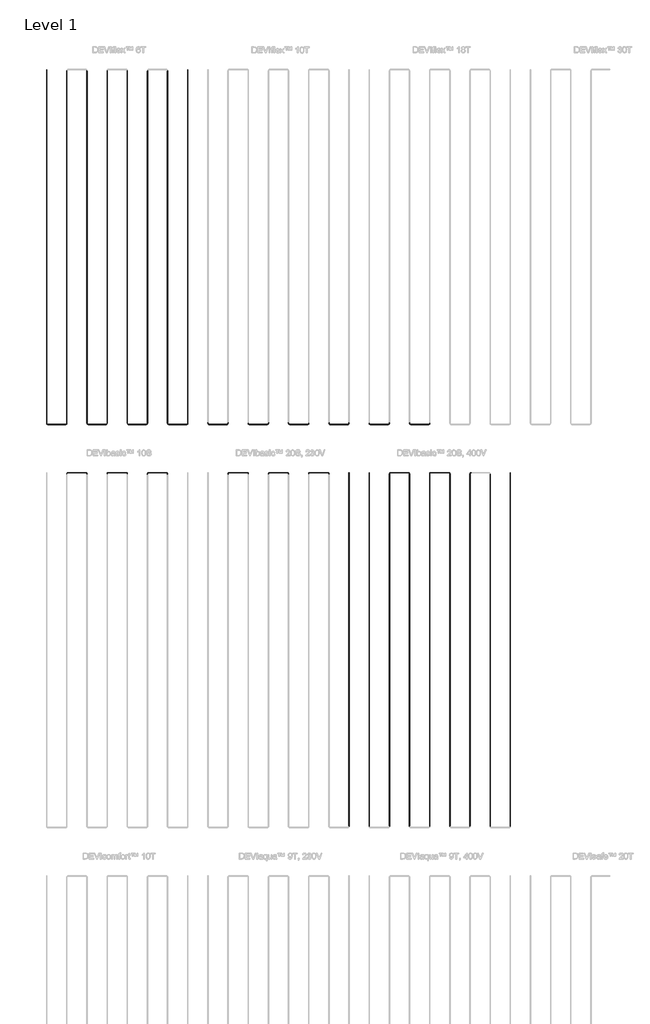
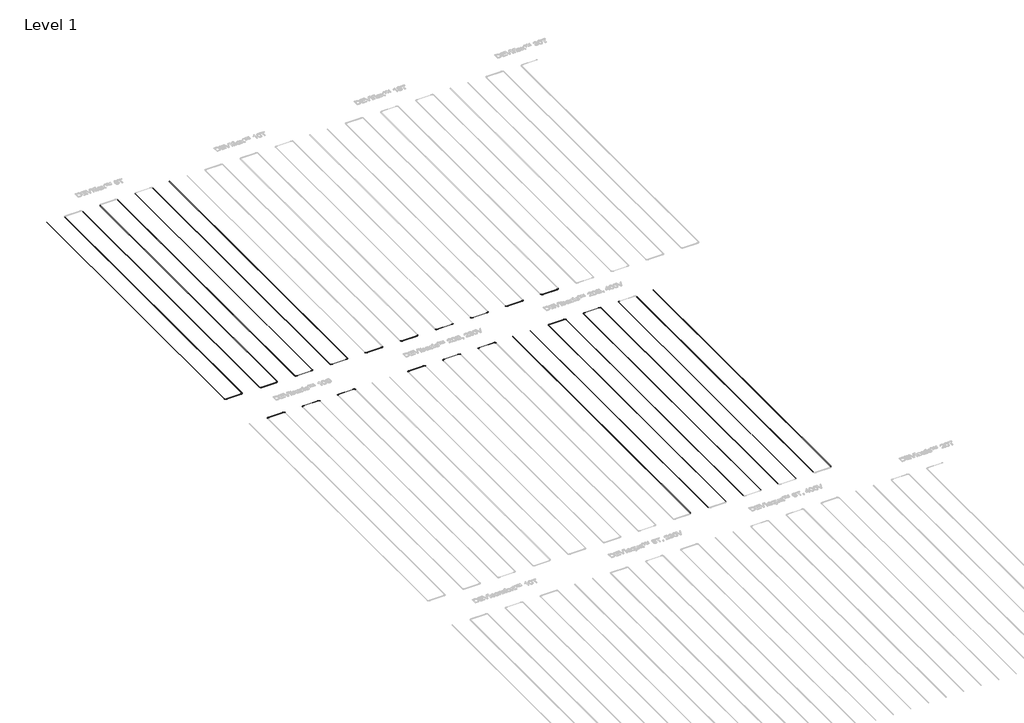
# One storey, part 3 of 26: 37 cable carrier fittings, 35 cable carrier segments.
"""IFC4 building model written with IfcOpenShell, lengths in millimetres."""

from ifc_helpers import new_model, si_unit, point, frame, frame_2d, origin, place, context, project, spatial, circle_curve, trimmed, segment, composite_curve, outline, extrude, transform, mapped, element, save
from components import cable_carrier_fitting_e4b1aeb6

model = new_model("IFC4")

# Units and contexts
model_context = context("Model", 3, world=origin())
ifc_project = project(units=[si_unit("LENGTHUNIT", "METRE", prefix="MILLI")], contexts=[model_context])

# Site, building, storey
site = spatial("IfcSite", under=ifc_project)
building = spatial("IfcBuilding", under=site)
storey = spatial("IfcBuildingStorey", under=building, Name="Level 1", Elevation=0.0)

# Cable carrier fittings
placement = place(None, origin())
cable_carrier_fitting_shape = cable_carrier_fitting_e4b1aeb6(model_context)
element("IfcCableCarrierFitting", 1, ObjectType="Danfoss Elbow : DEVIflex™ 6T", at=placement, inside=storey, context=model_context, shape_type="MappedRepresentation", body=[
    mapped(cable_carrier_fitting_shape, transform((-11587.3402445, -6738.7894079, -100.0), x_axis=(0.0, -1.0, 0.0), y_axis=(1.0, 0.0, 0.0), z_axis=(0.0, 0.0, 1.0))),
])
element("IfcCableCarrierFitting", 2, ObjectType="Danfoss Elbow : DEVIflex™ 6T", at=placement, inside=storey, context=model_context, shape_type="MappedRepresentation", body=[
    mapped(cable_carrier_fitting_shape, transform((-11087.3402445, -6738.7894079, -100.0), x_axis=(1.0, 0.0, 0.0), y_axis=(0.0, 1.0, 0.0), z_axis=(0.0, 0.0, 1.0))),
])
element("IfcCableCarrierFitting", 3, ObjectType="Danfoss Elbow : DEVIflex™ 6T", at=placement, inside=storey, context=model_context, shape_type="MappedRepresentation", body=[
    mapped(cable_carrier_fitting_shape, transform((-10587.3402445, -6738.7894079, -100.0), x_axis=(0.0, -1.0, 0.0), y_axis=(1.0, 0.0, 0.0), z_axis=(0.0, 0.0, 1.0))),
])
element("IfcCableCarrierFitting", 4, ObjectType="Danfoss Elbow : DEVIflex™ 6T", at=placement, inside=storey, context=model_context, shape_type="MappedRepresentation", body=[
    mapped(cable_carrier_fitting_shape, transform((-10087.3402445, -6738.7894079, -100.0), x_axis=(1.0, 0.0, 0.0), y_axis=(0.0, 1.0, 0.0), z_axis=(0.0, 0.0, 1.0))),
])
element("IfcCableCarrierFitting", 5, ObjectType="Danfoss Elbow : DEVIflex™ 6T", at=placement, inside=storey, context=model_context, shape_type="MappedRepresentation", body=[
    mapped(cable_carrier_fitting_shape, transform((-9587.3402445, -6738.7894079, -100.0), x_axis=(0.0, -1.0, 0.0), y_axis=(1.0, 0.0, 0.0), z_axis=(0.0, 0.0, 1.0))),
])
element("IfcCableCarrierFitting", 6, ObjectType="Danfoss Elbow : DEVIflex™ 6T", at=placement, inside=storey, context=model_context, shape_type="MappedRepresentation", body=[
    mapped(cable_carrier_fitting_shape, transform((-9087.3402445, -6738.7894079, -100.0), x_axis=(1.0, 0.0, 0.0), y_axis=(0.0, 1.0, 0.0), z_axis=(0.0, 0.0, 1.0))),
])
element("IfcCableCarrierFitting", 7, ObjectType="Danfoss Elbow : DEVIflex™ 6T", at=placement, inside=storey, context=model_context, shape_type="MappedRepresentation", body=[
    mapped(cable_carrier_fitting_shape, transform((-8587.3402445, -6738.7894079, -100.0), x_axis=(0.0, -1.0, 0.0), y_axis=(1.0, 0.0, 0.0), z_axis=(0.0, 0.0, 1.0))),
])
element("IfcCableCarrierFitting", 8, ObjectType="Danfoss Elbow : DEVIflex™ 6T", at=placement, inside=storey, context=model_context, shape_type="MappedRepresentation", body=[
    mapped(cable_carrier_fitting_shape, transform((-8087.3402445, -6738.7894079, -100.0), x_axis=(1.0, 0.0, 0.0), y_axis=(0.0, 1.0, 0.0), z_axis=(0.0, 0.0, 1.0))),
])
element("IfcCableCarrierFitting", 9, ObjectType="Danfoss Elbow : DEVIflex™ 10T", at=placement, inside=storey, context=model_context, shape_type="MappedRepresentation", body=[
    mapped(cable_carrier_fitting_shape, transform((-7587.3402445, -6738.7894079, -100.0), x_axis=(0.0, -1.0, 0.0), y_axis=(1.0, 0.0, 0.0), z_axis=(0.0, 0.0, 1.0))),
])
element("IfcCableCarrierFitting", 10, ObjectType="Danfoss Elbow : DEVIflex™ 10T", at=placement, inside=storey, context=model_context, shape_type="MappedRepresentation", body=[
    mapped(cable_carrier_fitting_shape, transform((-7087.3402445, -6738.7894079, -100.0), x_axis=(1.0, 0.0, 0.0), y_axis=(0.0, 1.0, 0.0), z_axis=(0.0, 0.0, 1.0))),
])
element("IfcCableCarrierFitting", 11, ObjectType="Danfoss Elbow : DEVIflex™ 10T", at=placement, inside=storey, context=model_context, shape_type="MappedRepresentation", body=[
    mapped(cable_carrier_fitting_shape, transform((-6587.3402445, -6738.7894079, -100.0), x_axis=(0.0, -1.0, 0.0), y_axis=(1.0, 0.0, 0.0), z_axis=(0.0, 0.0, 1.0))),
])
element("IfcCableCarrierFitting", 12, ObjectType="Danfoss Elbow : DEVIflex™ 10T", at=placement, inside=storey, context=model_context, shape_type="MappedRepresentation", body=[
    mapped(cable_carrier_fitting_shape, transform((-6087.3402445, -6738.7894079, -100.0), x_axis=(1.0, 0.0, 0.0), y_axis=(0.0, 1.0, 0.0), z_axis=(0.0, 0.0, 1.0))),
])
element("IfcCableCarrierFitting", 13, ObjectType="Danfoss Elbow : DEVIflex™ 10T", at=placement, inside=storey, context=model_context, shape_type="MappedRepresentation", body=[
    mapped(cable_carrier_fitting_shape, transform((-5587.3402445, -6738.7894079, -100.0), x_axis=(0.0, -1.0, 0.0), y_axis=(1.0, 0.0, 0.0), z_axis=(0.0, 0.0, 1.0))),
])
element("IfcCableCarrierFitting", 14, ObjectType="Danfoss Elbow : DEVIflex™ 10T", at=placement, inside=storey, context=model_context, shape_type="MappedRepresentation", body=[
    mapped(cable_carrier_fitting_shape, transform((-5087.3402445, -6738.7894079, -100.0), x_axis=(1.0, 0.0, 0.0), y_axis=(0.0, 1.0, 0.0), z_axis=(0.0, 0.0, 1.0))),
])
element("IfcCableCarrierFitting", 15, ObjectType="Danfoss Elbow : DEVIflex™ 10T", at=placement, inside=storey, context=model_context, shape_type="MappedRepresentation", body=[
    mapped(cable_carrier_fitting_shape, transform((-4587.3402445, -6738.7894079, -100.0), x_axis=(0.0, -1.0, 0.0), y_axis=(1.0, 0.0, 0.0), z_axis=(0.0, 0.0, 1.0))),
])
element("IfcCableCarrierFitting", 16, ObjectType="Danfoss Elbow : DEVIflex™ 10T", at=placement, inside=storey, context=model_context, shape_type="MappedRepresentation", body=[
    mapped(cable_carrier_fitting_shape, transform((-4087.3402445, -6738.7894079, -100.0), x_axis=(1.0, 0.0, 0.0), y_axis=(0.0, 1.0, 0.0), z_axis=(0.0, 0.0, 1.0))),
])
element("IfcCableCarrierFitting", 17, ObjectType="Danfoss Elbow : DEVIflex™ 18T", at=placement, inside=storey, context=model_context, shape_type="MappedRepresentation", body=[
    mapped(cable_carrier_fitting_shape, transform((-3587.3402445, -6738.7894079, -100.0), x_axis=(0.0, -1.0, 0.0), y_axis=(1.0, 0.0, 0.0), z_axis=(0.0, 0.0, 1.0))),
])
element("IfcCableCarrierFitting", 18, ObjectType="Danfoss Elbow : DEVIflex™ 18T", at=placement, inside=storey, context=model_context, shape_type="MappedRepresentation", body=[
    mapped(cable_carrier_fitting_shape, transform((-3087.3402445, -6738.7894079, -100.0), x_axis=(1.0, 0.0, 0.0), y_axis=(0.0, 1.0, 0.0), z_axis=(0.0, 0.0, 1.0))),
])
element("IfcCableCarrierFitting", 19, ObjectType="Danfoss Elbow : DEVIflex™ 18T", at=placement, inside=storey, context=model_context, shape_type="MappedRepresentation", body=[
    mapped(cable_carrier_fitting_shape, transform((-2587.3402445, -6738.7894079, -100.0), x_axis=(0.0, -1.0, 0.0), y_axis=(1.0, 0.0, 0.0), z_axis=(0.0, 0.0, 1.0))),
])
element("IfcCableCarrierFitting", 20, ObjectType="Danfoss Elbow : DEVIflex™ 18T", at=placement, inside=storey, context=model_context, shape_type="MappedRepresentation", body=[
    mapped(cable_carrier_fitting_shape, transform((-2087.3402445, -6738.7894079, -100.0), x_axis=(1.0, 0.0, 0.0), y_axis=(0.0, 1.0, 0.0), z_axis=(0.0, 0.0, 1.0))),
])
element("IfcCableCarrierFitting", 21, ObjectType="Danfoss Elbow : DEVIbasic™ 10S", at=placement, inside=storey, context=model_context, shape_type="MappedRepresentation", body=[
    mapped(cable_carrier_fitting_shape, transform((-11087.3402445, -7938.7894079, -100.0), x_axis=(-1.0, 0.0, 0.0), y_axis=(0.0, -1.0, 0.0), z_axis=(0.0, 0.0, 1.0))),
])
element("IfcCableCarrierFitting", 22, ObjectType="Danfoss Elbow : DEVIbasic™ 10S", at=placement, inside=storey, context=model_context, shape_type="MappedRepresentation", body=[
    mapped(cable_carrier_fitting_shape, transform((-10587.3402445, -7938.7894079, -100.0), x_axis=(0.0, 1.0, 0.0), y_axis=(-1.0, 0.0, 0.0), z_axis=(0.0, 0.0, 1.0))),
])
element("IfcCableCarrierFitting", 23, ObjectType="Danfoss Elbow : DEVIbasic™ 10S", at=placement, inside=storey, context=model_context, shape_type="MappedRepresentation", body=[
    mapped(cable_carrier_fitting_shape, transform((-10087.3402445, -7938.7894079, -100.0), x_axis=(-1.0, 0.0, 0.0), y_axis=(0.0, -1.0, 0.0), z_axis=(0.0, 0.0, 1.0))),
])
element("IfcCableCarrierFitting", 24, ObjectType="Danfoss Elbow : DEVIbasic™ 10S", at=placement, inside=storey, context=model_context, shape_type="MappedRepresentation", body=[
    mapped(cable_carrier_fitting_shape, transform((-9587.3402445, -7938.7894079, -100.0), x_axis=(0.0, 1.0, 0.0), y_axis=(-1.0, 0.0, 0.0), z_axis=(0.0, 0.0, 1.0))),
])
element("IfcCableCarrierFitting", 25, ObjectType="Danfoss Elbow : DEVIbasic™ 10S", at=placement, inside=storey, context=model_context, shape_type="MappedRepresentation", body=[
    mapped(cable_carrier_fitting_shape, transform((-9087.3402445, -7938.7894079, -100.0), x_axis=(-1.0, 0.0, 0.0), y_axis=(0.0, -1.0, 0.0), z_axis=(0.0, 0.0, 1.0))),
])
element("IfcCableCarrierFitting", 26, ObjectType="Danfoss Elbow : DEVIbasic™ 10S", at=placement, inside=storey, context=model_context, shape_type="MappedRepresentation", body=[
    mapped(cable_carrier_fitting_shape, transform((-8587.3402445, -7938.7894079, -100.0), x_axis=(0.0, 1.0, 0.0), y_axis=(-1.0, 0.0, 0.0), z_axis=(0.0, 0.0, 1.0))),
])
element("IfcCableCarrierFitting", 27, ObjectType="Danfoss Elbow : DEVIbasic™ 20S, 230V", at=placement, inside=storey, context=model_context, shape_type="MappedRepresentation", body=[
    mapped(cable_carrier_fitting_shape, transform((-7087.3402445, -7938.7894079, -100.0), x_axis=(-1.0, 0.0, 0.0), y_axis=(0.0, -1.0, 0.0), z_axis=(0.0, 0.0, 1.0))),
])
element("IfcCableCarrierFitting", 28, ObjectType="Danfoss Elbow : DEVIbasic™ 20S, 230V", at=placement, inside=storey, context=model_context, shape_type="MappedRepresentation", body=[
    mapped(cable_carrier_fitting_shape, transform((-6587.3402445, -7938.7894079, -100.0), x_axis=(0.0, 1.0, 0.0), y_axis=(-1.0, 0.0, 0.0), z_axis=(0.0, 0.0, 1.0))),
])
element("IfcCableCarrierFitting", 29, ObjectType="Danfoss Elbow : DEVIbasic™ 20S, 230V", at=placement, inside=storey, context=model_context, shape_type="MappedRepresentation", body=[
    mapped(cable_carrier_fitting_shape, transform((-6087.3402445, -7938.7894079, -100.0), x_axis=(-1.0, 0.0, 0.0), y_axis=(0.0, -1.0, 0.0), z_axis=(0.0, 0.0, 1.0))),
])
element("IfcCableCarrierFitting", 30, ObjectType="Danfoss Elbow : DEVIbasic™ 20S, 230V", at=placement, inside=storey, context=model_context, shape_type="MappedRepresentation", body=[
    mapped(cable_carrier_fitting_shape, transform((-5587.3402445, -7938.7894079, -100.0), x_axis=(0.0, 1.0, 0.0), y_axis=(-1.0, 0.0, 0.0), z_axis=(0.0, 0.0, 1.0))),
])
element("IfcCableCarrierFitting", 31, ObjectType="Danfoss Elbow : DEVIbasic™ 20S, 230V", at=placement, inside=storey, context=model_context, shape_type="MappedRepresentation", body=[
    mapped(cable_carrier_fitting_shape, transform((-5087.3402445, -7938.7894079, -100.0), x_axis=(-1.0, 0.0, 0.0), y_axis=(0.0, -1.0, 0.0), z_axis=(0.0, 0.0, 1.0))),
])
element("IfcCableCarrierFitting", 32, ObjectType="Danfoss Elbow : DEVIbasic™ 20S, 230V", at=placement, inside=storey, context=model_context, shape_type="MappedRepresentation", body=[
    mapped(cable_carrier_fitting_shape, transform((-4587.3402445, -7938.7894079, -100.0), x_axis=(0.0, 1.0, 0.0), y_axis=(-1.0, 0.0, 0.0), z_axis=(0.0, 0.0, 1.0))),
])
element("IfcCableCarrierFitting", 33, ObjectType="Danfoss Elbow : DEVIbasic™ 20S, 400V", at=placement, inside=storey, context=model_context, shape_type="MappedRepresentation", body=[
    mapped(cable_carrier_fitting_shape, transform((-3087.3402445, -7938.7894079, -100.0), x_axis=(-1.0, 0.0, 0.0), y_axis=(0.0, -1.0, 0.0), z_axis=(0.0, 0.0, 1.0))),
])
element("IfcCableCarrierFitting", 34, ObjectType="Danfoss Elbow : DEVIbasic™ 20S, 400V", at=placement, inside=storey, context=model_context, shape_type="MappedRepresentation", body=[
    mapped(cable_carrier_fitting_shape, transform((-2587.3402445, -7938.7894079, -100.0), x_axis=(0.0, 1.0, 0.0), y_axis=(-1.0, 0.0, 0.0), z_axis=(0.0, 0.0, 1.0))),
])
element("IfcCableCarrierFitting", 35, ObjectType="Danfoss Elbow : DEVIbasic™ 20S, 400V", at=placement, inside=storey, context=model_context, shape_type="MappedRepresentation", body=[
    mapped(cable_carrier_fitting_shape, transform((-2087.3402445, -7938.7894079, -100.0), x_axis=(-1.0, 0.0, 0.0), y_axis=(0.0, -1.0, 0.0), z_axis=(0.0, 0.0, 1.0))),
])
element("IfcCableCarrierFitting", 36, ObjectType="Danfoss Elbow : DEVIbasic™ 20S, 400V", at=placement, inside=storey, context=model_context, shape_type="MappedRepresentation", body=[
    mapped(cable_carrier_fitting_shape, transform((-1587.3402445, -7938.7894079, -100.0), x_axis=(0.0, 1.0, 0.0), y_axis=(-1.0, 0.0, 0.0), z_axis=(0.0, 0.0, 1.0))),
])
element("IfcCableCarrierFitting", 37, ObjectType="Danfoss Elbow : DEVIbasic™ 20S, 400V", at=placement, inside=storey, context=model_context, shape_type="MappedRepresentation", body=[
    mapped(cable_carrier_fitting_shape, transform((-1087.3402445, -7938.7894079, -100.0), x_axis=(-1.0, 0.0, 0.0), y_axis=(0.0, -1.0, 0.0), z_axis=(0.0, 0.0, 1.0))),
])

# Cable carrier segments
element("IfcCableCarrierSegment", 38, ObjectType="DEVIflex™ 6T", at=placement, inside=storey, context=model_context, shape_type="SweptSolid", body=[
    extrude(outline(composite_curve([segment(trimmed(circle_curve(frame_2d((-100.0, -11587.3402445)), 3.45), [point((-100.0, -11590.7902445))], [point((-103.45, -11587.3402445))], False, "CARTESIAN"), True, "CONTINUOUS"), segment(trimmed(circle_curve(frame_2d((-100.0, -11587.3402445)), 3.45), [point((-103.45, -11587.3402445))], [point((-100.0, -11583.8902445))], False, "CARTESIAN"), True, "CONTINUOUS"), segment(trimmed(circle_curve(frame_2d((-100.0, -11587.3402445)), 3.45), [point((-100.0, -11583.8902445))], [point((-96.55, -11587.3402445))], False, "CARTESIAN"), True, "CONTINUOUS"), segment(trimmed(circle_curve(frame_2d((-100.0, -11587.3402445)), 3.45), [point((-96.55, -11587.3402445))], [point((-100.0, -11590.7902445))], False, "CARTESIAN"), True, "CONTINUOUS")], self_intersect=False)), frame((0.0, -6703.7894079, 0.0), z_axis=(0.0, 1.0, 0.0), x_axis=(0.0, 0.0, 1.0)), (0.0, 0.0, 1.0), 8765.0),
])
element("IfcCableCarrierSegment", 39, ObjectType="DEVIflex™ 6T", at=placement, inside=storey, context=model_context, shape_type="SweptSolid", body=[
    extrude(outline(composite_curve([segment(trimmed(circle_curve(frame_2d((-6738.7894079, -100.0)), 3.45), [point((-6742.2394079, -100.0))], [point((-6738.7894079, -96.55))], False, "CARTESIAN"), True, "CONTINUOUS"), segment(trimmed(circle_curve(frame_2d((-6738.7894079, -100.0)), 3.45), [point((-6738.7894079, -96.55))], [point((-6735.3394079, -100.0))], False, "CARTESIAN"), True, "CONTINUOUS"), segment(trimmed(circle_curve(frame_2d((-6738.7894079, -100.0)), 3.45), [point((-6735.3394079, -100.0))], [point((-6738.7894079, -103.45))], False, "CARTESIAN"), True, "CONTINUOUS"), segment(trimmed(circle_curve(frame_2d((-6738.7894079, -100.0)), 3.45), [point((-6738.7894079, -103.45))], [point((-6742.2394079, -100.0))], False, "CARTESIAN"), True, "CONTINUOUS")], self_intersect=False)), frame((-11552.3402445, 0.0, 0.0), z_axis=(1.0, 0.0, 0.0), x_axis=(0.0, 1.0, 0.0)), (0.0, 0.0, 1.0), 430.0),
])
element("IfcCableCarrierSegment", 40, ObjectType="DEVIflex™ 6T", at=placement, inside=storey, context=model_context, shape_type="SweptSolid", body=[
    extrude(outline(composite_curve([segment(trimmed(circle_curve(frame_2d((-100.0, -11087.3402445)), 3.45), [point((-100.0, -11083.8902445))], [point((-96.55, -11087.3402445))], False, "CARTESIAN"), True, "CONTINUOUS"), segment(trimmed(circle_curve(frame_2d((-100.0, -11087.3402445)), 3.45), [point((-96.55, -11087.3402445))], [point((-100.0, -11090.7902445))], False, "CARTESIAN"), True, "CONTINUOUS"), segment(trimmed(circle_curve(frame_2d((-100.0, -11087.3402445)), 3.45), [point((-100.0, -11090.7902445))], [point((-103.45, -11087.3402445))], False, "CARTESIAN"), True, "CONTINUOUS"), segment(trimmed(circle_curve(frame_2d((-100.0, -11087.3402445)), 3.45), [point((-103.45, -11087.3402445))], [point((-100.0, -11083.8902445))], False, "CARTESIAN"), True, "CONTINUOUS")], self_intersect=False)), frame((0.0, -6703.7894079, 0.0), z_axis=(0.0, 1.0, 0.0), x_axis=(0.0, 0.0, 1.0)), (0.0, 0.0, 1.0), 8730.0),
])
element("IfcCableCarrierSegment", 41, ObjectType="DEVIflex™ 6T", at=placement, inside=storey, context=model_context, shape_type="SweptSolid", body=[
    extrude(outline(composite_curve([segment(trimmed(circle_curve(frame_2d((-100.0, -10587.3402445)), 3.45), [point((-100.0, -10590.7902445))], [point((-103.45, -10587.3402445))], False, "CARTESIAN"), True, "CONTINUOUS"), segment(trimmed(circle_curve(frame_2d((-100.0, -10587.3402445)), 3.45), [point((-103.45, -10587.3402445))], [point((-100.0, -10583.8902445))], False, "CARTESIAN"), True, "CONTINUOUS"), segment(trimmed(circle_curve(frame_2d((-100.0, -10587.3402445)), 3.45), [point((-100.0, -10583.8902445))], [point((-96.55, -10587.3402445))], False, "CARTESIAN"), True, "CONTINUOUS"), segment(trimmed(circle_curve(frame_2d((-100.0, -10587.3402445)), 3.45), [point((-96.55, -10587.3402445))], [point((-100.0, -10590.7902445))], False, "CARTESIAN"), True, "CONTINUOUS")], self_intersect=False)), frame((0.0, -6703.7894079, 0.0), z_axis=(0.0, 1.0, 0.0), x_axis=(0.0, 0.0, 1.0)), (0.0, 0.0, 1.0), 8730.0),
])
element("IfcCableCarrierSegment", 42, ObjectType="DEVIflex™ 6T", at=placement, inside=storey, context=model_context, shape_type="SweptSolid", body=[
    extrude(outline(composite_curve([segment(trimmed(circle_curve(frame_2d((-6738.7894079, -100.0)), 3.45), [point((-6742.2394079, -100.0))], [point((-6738.7894079, -96.55))], False, "CARTESIAN"), True, "CONTINUOUS"), segment(trimmed(circle_curve(frame_2d((-6738.7894079, -100.0)), 3.45), [point((-6738.7894079, -96.55))], [point((-6735.3394079, -100.0))], False, "CARTESIAN"), True, "CONTINUOUS"), segment(trimmed(circle_curve(frame_2d((-6738.7894079, -100.0)), 3.45), [point((-6735.3394079, -100.0))], [point((-6738.7894079, -103.45))], False, "CARTESIAN"), True, "CONTINUOUS"), segment(trimmed(circle_curve(frame_2d((-6738.7894079, -100.0)), 3.45), [point((-6738.7894079, -103.45))], [point((-6742.2394079, -100.0))], False, "CARTESIAN"), True, "CONTINUOUS")], self_intersect=False)), frame((-10552.3402445, 0.0, 0.0), z_axis=(1.0, 0.0, 0.0), x_axis=(0.0, 1.0, 0.0)), (0.0, 0.0, 1.0), 430.0),
])
element("IfcCableCarrierSegment", 43, ObjectType="DEVIflex™ 6T", at=placement, inside=storey, context=model_context, shape_type="SweptSolid", body=[
    extrude(outline(composite_curve([segment(trimmed(circle_curve(frame_2d((-100.0, -10087.3402445)), 3.45), [point((-100.0, -10083.8902445))], [point((-96.55, -10087.3402445))], False, "CARTESIAN"), True, "CONTINUOUS"), segment(trimmed(circle_curve(frame_2d((-100.0, -10087.3402445)), 3.45), [point((-96.55, -10087.3402445))], [point((-100.0, -10090.7902445))], False, "CARTESIAN"), True, "CONTINUOUS"), segment(trimmed(circle_curve(frame_2d((-100.0, -10087.3402445)), 3.45), [point((-100.0, -10090.7902445))], [point((-103.45, -10087.3402445))], False, "CARTESIAN"), True, "CONTINUOUS"), segment(trimmed(circle_curve(frame_2d((-100.0, -10087.3402445)), 3.45), [point((-103.45, -10087.3402445))], [point((-100.0, -10083.8902445))], False, "CARTESIAN"), True, "CONTINUOUS")], self_intersect=False)), frame((0.0, -6703.7894079, 0.0), z_axis=(0.0, 1.0, 0.0), x_axis=(0.0, 0.0, 1.0)), (0.0, 0.0, 1.0), 8730.0),
])
element("IfcCableCarrierSegment", 44, ObjectType="DEVIflex™ 6T", at=placement, inside=storey, context=model_context, shape_type="SweptSolid", body=[
    extrude(outline(composite_curve([segment(trimmed(circle_curve(frame_2d((-100.0, -9587.3402445)), 3.45), [point((-100.0, -9590.7902445))], [point((-103.45, -9587.3402445))], False, "CARTESIAN"), True, "CONTINUOUS"), segment(trimmed(circle_curve(frame_2d((-100.0, -9587.3402445)), 3.45), [point((-103.45, -9587.3402445))], [point((-100.0, -9583.8902445))], False, "CARTESIAN"), True, "CONTINUOUS"), segment(trimmed(circle_curve(frame_2d((-100.0, -9587.3402445)), 3.45), [point((-100.0, -9583.8902445))], [point((-96.55, -9587.3402445))], False, "CARTESIAN"), True, "CONTINUOUS"), segment(trimmed(circle_curve(frame_2d((-100.0, -9587.3402445)), 3.45), [point((-96.55, -9587.3402445))], [point((-100.0, -9590.7902445))], False, "CARTESIAN"), True, "CONTINUOUS")], self_intersect=False)), frame((0.0, -6703.7894079, 0.0), z_axis=(0.0, 1.0, 0.0), x_axis=(0.0, 0.0, 1.0)), (0.0, 0.0, 1.0), 8730.0),
])
element("IfcCableCarrierSegment", 45, ObjectType="DEVIflex™ 6T", at=placement, inside=storey, context=model_context, shape_type="SweptSolid", body=[
    extrude(outline(composite_curve([segment(trimmed(circle_curve(frame_2d((-6738.7894079, -100.0)), 3.45), [point((-6742.2394079, -100.0))], [point((-6738.7894079, -96.55))], False, "CARTESIAN"), True, "CONTINUOUS"), segment(trimmed(circle_curve(frame_2d((-6738.7894079, -100.0)), 3.45), [point((-6738.7894079, -96.55))], [point((-6735.3394079, -100.0))], False, "CARTESIAN"), True, "CONTINUOUS"), segment(trimmed(circle_curve(frame_2d((-6738.7894079, -100.0)), 3.45), [point((-6735.3394079, -100.0))], [point((-6738.7894079, -103.45))], False, "CARTESIAN"), True, "CONTINUOUS"), segment(trimmed(circle_curve(frame_2d((-6738.7894079, -100.0)), 3.45), [point((-6738.7894079, -103.45))], [point((-6742.2394079, -100.0))], False, "CARTESIAN"), True, "CONTINUOUS")], self_intersect=False)), frame((-9552.3402445, 0.0, 0.0), z_axis=(1.0, 0.0, 0.0), x_axis=(0.0, 1.0, 0.0)), (0.0, 0.0, 1.0), 430.0),
])
element("IfcCableCarrierSegment", 46, ObjectType="DEVIflex™ 6T", at=placement, inside=storey, context=model_context, shape_type="SweptSolid", body=[
    extrude(outline(composite_curve([segment(trimmed(circle_curve(frame_2d((-100.0, -9087.3402445)), 3.45), [point((-100.0, -9083.8902445))], [point((-96.55, -9087.3402445))], False, "CARTESIAN"), True, "CONTINUOUS"), segment(trimmed(circle_curve(frame_2d((-100.0, -9087.3402445)), 3.45), [point((-96.55, -9087.3402445))], [point((-100.0, -9090.7902445))], False, "CARTESIAN"), True, "CONTINUOUS"), segment(trimmed(circle_curve(frame_2d((-100.0, -9087.3402445)), 3.45), [point((-100.0, -9090.7902445))], [point((-103.45, -9087.3402445))], False, "CARTESIAN"), True, "CONTINUOUS"), segment(trimmed(circle_curve(frame_2d((-100.0, -9087.3402445)), 3.45), [point((-103.45, -9087.3402445))], [point((-100.0, -9083.8902445))], False, "CARTESIAN"), True, "CONTINUOUS")], self_intersect=False)), frame((0.0, -6703.7894079, 0.0), z_axis=(0.0, 1.0, 0.0), x_axis=(0.0, 0.0, 1.0)), (0.0, 0.0, 1.0), 8730.0),
])
element("IfcCableCarrierSegment", 47, ObjectType="DEVIflex™ 6T", at=placement, inside=storey, context=model_context, shape_type="SweptSolid", body=[
    extrude(outline(composite_curve([segment(trimmed(circle_curve(frame_2d((-100.0, -8587.3402445)), 3.45), [point((-100.0, -8590.7902445))], [point((-103.45, -8587.3402445))], False, "CARTESIAN"), True, "CONTINUOUS"), segment(trimmed(circle_curve(frame_2d((-100.0, -8587.3402445)), 3.45), [point((-103.45, -8587.3402445))], [point((-100.0, -8583.8902445))], False, "CARTESIAN"), True, "CONTINUOUS"), segment(trimmed(circle_curve(frame_2d((-100.0, -8587.3402445)), 3.45), [point((-100.0, -8583.8902445))], [point((-96.55, -8587.3402445))], False, "CARTESIAN"), True, "CONTINUOUS"), segment(trimmed(circle_curve(frame_2d((-100.0, -8587.3402445)), 3.45), [point((-96.55, -8587.3402445))], [point((-100.0, -8590.7902445))], False, "CARTESIAN"), True, "CONTINUOUS")], self_intersect=False)), frame((0.0, -6703.7894079, 0.0), z_axis=(0.0, 1.0, 0.0), x_axis=(0.0, 0.0, 1.0)), (0.0, 0.0, 1.0), 8730.0),
])
element("IfcCableCarrierSegment", 48, ObjectType="DEVIflex™ 6T", at=placement, inside=storey, context=model_context, shape_type="SweptSolid", body=[
    extrude(outline(composite_curve([segment(trimmed(circle_curve(frame_2d((-6738.7894079, -100.0)), 3.45), [point((-6742.2394079, -100.0))], [point((-6738.7894079, -96.55))], False, "CARTESIAN"), True, "CONTINUOUS"), segment(trimmed(circle_curve(frame_2d((-6738.7894079, -100.0)), 3.45), [point((-6738.7894079, -96.55))], [point((-6735.3394079, -100.0))], False, "CARTESIAN"), True, "CONTINUOUS"), segment(trimmed(circle_curve(frame_2d((-6738.7894079, -100.0)), 3.45), [point((-6735.3394079, -100.0))], [point((-6738.7894079, -103.45))], False, "CARTESIAN"), True, "CONTINUOUS"), segment(trimmed(circle_curve(frame_2d((-6738.7894079, -100.0)), 3.45), [point((-6738.7894079, -103.45))], [point((-6742.2394079, -100.0))], False, "CARTESIAN"), True, "CONTINUOUS")], self_intersect=False)), frame((-8552.3402445, 0.0, 0.0), z_axis=(1.0, 0.0, 0.0), x_axis=(0.0, 1.0, 0.0)), (0.0, 0.0, 1.0), 430.0),
])
element("IfcCableCarrierSegment", 49, ObjectType="DEVIflex™ 6T", at=placement, inside=storey, context=model_context, shape_type="SweptSolid", body=[
    extrude(outline(composite_curve([segment(trimmed(circle_curve(frame_2d((-100.0, -8087.3402445)), 3.45), [point((-100.0, -8083.8902445))], [point((-96.55, -8087.3402445))], False, "CARTESIAN"), True, "CONTINUOUS"), segment(trimmed(circle_curve(frame_2d((-100.0, -8087.3402445)), 3.45), [point((-96.55, -8087.3402445))], [point((-100.0, -8090.7902445))], False, "CARTESIAN"), True, "CONTINUOUS"), segment(trimmed(circle_curve(frame_2d((-100.0, -8087.3402445)), 3.45), [point((-100.0, -8090.7902445))], [point((-103.45, -8087.3402445))], False, "CARTESIAN"), True, "CONTINUOUS"), segment(trimmed(circle_curve(frame_2d((-100.0, -8087.3402445)), 3.45), [point((-103.45, -8087.3402445))], [point((-100.0, -8083.8902445))], False, "CARTESIAN"), True, "CONTINUOUS")], self_intersect=False)), frame((0.0, -6703.7894079, 0.0), z_axis=(0.0, 1.0, 0.0), x_axis=(0.0, 0.0, 1.0)), (0.0, 0.0, 1.0), 8765.0),
])
element("IfcCableCarrierSegment", 50, ObjectType="DEVIflex™ 10T", at=placement, inside=storey, context=model_context, shape_type="SweptSolid", body=[
    extrude(outline(composite_curve([segment(trimmed(circle_curve(frame_2d((-6738.7894079, -100.0)), 3.45), [point((-6742.2394079, -100.0))], [point((-6738.7894079, -96.55))], False, "CARTESIAN"), True, "CONTINUOUS"), segment(trimmed(circle_curve(frame_2d((-6738.7894079, -100.0)), 3.45), [point((-6738.7894079, -96.55))], [point((-6735.3394079, -100.0))], False, "CARTESIAN"), True, "CONTINUOUS"), segment(trimmed(circle_curve(frame_2d((-6738.7894079, -100.0)), 3.45), [point((-6735.3394079, -100.0))], [point((-6738.7894079, -103.45))], False, "CARTESIAN"), True, "CONTINUOUS"), segment(trimmed(circle_curve(frame_2d((-6738.7894079, -100.0)), 3.45), [point((-6738.7894079, -103.45))], [point((-6742.2394079, -100.0))], False, "CARTESIAN"), True, "CONTINUOUS")], self_intersect=False)), frame((-7552.3402445, 0.0, 0.0), z_axis=(1.0, 0.0, 0.0), x_axis=(0.0, 1.0, 0.0)), (0.0, 0.0, 1.0), 430.0),
])
element("IfcCableCarrierSegment", 51, ObjectType="DEVIflex™ 10T", at=placement, inside=storey, context=model_context, shape_type="SweptSolid", body=[
    extrude(outline(composite_curve([segment(trimmed(circle_curve(frame_2d((-6738.7894079, -100.0)), 3.45), [point((-6742.2394079, -100.0))], [point((-6738.7894079, -96.55))], False, "CARTESIAN"), True, "CONTINUOUS"), segment(trimmed(circle_curve(frame_2d((-6738.7894079, -100.0)), 3.45), [point((-6738.7894079, -96.55))], [point((-6735.3394079, -100.0))], False, "CARTESIAN"), True, "CONTINUOUS"), segment(trimmed(circle_curve(frame_2d((-6738.7894079, -100.0)), 3.45), [point((-6735.3394079, -100.0))], [point((-6738.7894079, -103.45))], False, "CARTESIAN"), True, "CONTINUOUS"), segment(trimmed(circle_curve(frame_2d((-6738.7894079, -100.0)), 3.45), [point((-6738.7894079, -103.45))], [point((-6742.2394079, -100.0))], False, "CARTESIAN"), True, "CONTINUOUS")], self_intersect=False)), frame((-6552.3402445, 0.0, 0.0), z_axis=(1.0, 0.0, 0.0), x_axis=(0.0, 1.0, 0.0)), (0.0, 0.0, 1.0), 430.0),
])
element("IfcCableCarrierSegment", 52, ObjectType="DEVIflex™ 10T", at=placement, inside=storey, context=model_context, shape_type="SweptSolid", body=[
    extrude(outline(composite_curve([segment(trimmed(circle_curve(frame_2d((-6738.7894079, -100.0)), 3.45), [point((-6742.2394079, -100.0))], [point((-6738.7894079, -96.55))], False, "CARTESIAN"), True, "CONTINUOUS"), segment(trimmed(circle_curve(frame_2d((-6738.7894079, -100.0)), 3.45), [point((-6738.7894079, -96.55))], [point((-6735.3394079, -100.0))], False, "CARTESIAN"), True, "CONTINUOUS"), segment(trimmed(circle_curve(frame_2d((-6738.7894079, -100.0)), 3.45), [point((-6735.3394079, -100.0))], [point((-6738.7894079, -103.45))], False, "CARTESIAN"), True, "CONTINUOUS"), segment(trimmed(circle_curve(frame_2d((-6738.7894079, -100.0)), 3.45), [point((-6738.7894079, -103.45))], [point((-6742.2394079, -100.0))], False, "CARTESIAN"), True, "CONTINUOUS")], self_intersect=False)), frame((-5552.3402445, 0.0, 0.0), z_axis=(1.0, 0.0, 0.0), x_axis=(0.0, 1.0, 0.0)), (0.0, 0.0, 1.0), 430.0),
])
element("IfcCableCarrierSegment", 53, ObjectType="DEVIflex™ 10T", at=placement, inside=storey, context=model_context, shape_type="SweptSolid", body=[
    extrude(outline(composite_curve([segment(trimmed(circle_curve(frame_2d((-6738.7894079, -100.0)), 3.45), [point((-6742.2394079, -100.0))], [point((-6738.7894079, -96.55))], False, "CARTESIAN"), True, "CONTINUOUS"), segment(trimmed(circle_curve(frame_2d((-6738.7894079, -100.0)), 3.45), [point((-6738.7894079, -96.55))], [point((-6735.3394079, -100.0))], False, "CARTESIAN"), True, "CONTINUOUS"), segment(trimmed(circle_curve(frame_2d((-6738.7894079, -100.0)), 3.45), [point((-6735.3394079, -100.0))], [point((-6738.7894079, -103.45))], False, "CARTESIAN"), True, "CONTINUOUS"), segment(trimmed(circle_curve(frame_2d((-6738.7894079, -100.0)), 3.45), [point((-6738.7894079, -103.45))], [point((-6742.2394079, -100.0))], False, "CARTESIAN"), True, "CONTINUOUS")], self_intersect=False)), frame((-4552.3402445, 0.0, 0.0), z_axis=(1.0, 0.0, 0.0), x_axis=(0.0, 1.0, 0.0)), (0.0, 0.0, 1.0), 430.0),
])
element("IfcCableCarrierSegment", 54, ObjectType="DEVIflex™ 18T", at=placement, inside=storey, context=model_context, shape_type="SweptSolid", body=[
    extrude(outline(composite_curve([segment(trimmed(circle_curve(frame_2d((-6738.7894079, -100.0)), 3.45), [point((-6742.2394079, -100.0))], [point((-6738.7894079, -96.55))], False, "CARTESIAN"), True, "CONTINUOUS"), segment(trimmed(circle_curve(frame_2d((-6738.7894079, -100.0)), 3.45), [point((-6738.7894079, -96.55))], [point((-6735.3394079, -100.0))], False, "CARTESIAN"), True, "CONTINUOUS"), segment(trimmed(circle_curve(frame_2d((-6738.7894079, -100.0)), 3.45), [point((-6735.3394079, -100.0))], [point((-6738.7894079, -103.45))], False, "CARTESIAN"), True, "CONTINUOUS"), segment(trimmed(circle_curve(frame_2d((-6738.7894079, -100.0)), 3.45), [point((-6738.7894079, -103.45))], [point((-6742.2394079, -100.0))], False, "CARTESIAN"), True, "CONTINUOUS")], self_intersect=False)), frame((-3552.3402445, 0.0, 0.0), z_axis=(1.0, 0.0, 0.0), x_axis=(0.0, 1.0, 0.0)), (0.0, 0.0, 1.0), 430.0),
])
element("IfcCableCarrierSegment", 55, ObjectType="DEVIflex™ 18T", at=placement, inside=storey, context=model_context, shape_type="SweptSolid", body=[
    extrude(outline(composite_curve([segment(trimmed(circle_curve(frame_2d((-6738.7894079, -100.0)), 3.45), [point((-6742.2394079, -100.0))], [point((-6738.7894079, -96.55))], False, "CARTESIAN"), True, "CONTINUOUS"), segment(trimmed(circle_curve(frame_2d((-6738.7894079, -100.0)), 3.45), [point((-6738.7894079, -96.55))], [point((-6735.3394079, -100.0))], False, "CARTESIAN"), True, "CONTINUOUS"), segment(trimmed(circle_curve(frame_2d((-6738.7894079, -100.0)), 3.45), [point((-6735.3394079, -100.0))], [point((-6738.7894079, -103.45))], False, "CARTESIAN"), True, "CONTINUOUS"), segment(trimmed(circle_curve(frame_2d((-6738.7894079, -100.0)), 3.45), [point((-6738.7894079, -103.45))], [point((-6742.2394079, -100.0))], False, "CARTESIAN"), True, "CONTINUOUS")], self_intersect=False)), frame((-2552.3402445, 0.0, 0.0), z_axis=(1.0, 0.0, 0.0), x_axis=(0.0, 1.0, 0.0)), (0.0, 0.0, 1.0), 430.0),
])
element("IfcCableCarrierSegment", 56, ObjectType="DEVIbasic™ 10S", at=placement, inside=storey, context=model_context, shape_type="SweptSolid", body=[
    extrude(outline(composite_curve([segment(trimmed(circle_curve(frame_2d((-7938.7894079, -100.0)), 3.45), [point((-7942.2394079, -100.0))], [point((-7938.7894079, -96.55))], False, "CARTESIAN"), True, "CONTINUOUS"), segment(trimmed(circle_curve(frame_2d((-7938.7894079, -100.0)), 3.45), [point((-7938.7894079, -96.55))], [point((-7935.3394079, -100.0))], False, "CARTESIAN"), True, "CONTINUOUS"), segment(trimmed(circle_curve(frame_2d((-7938.7894079, -100.0)), 3.45), [point((-7935.3394079, -100.0))], [point((-7938.7894079, -103.45))], False, "CARTESIAN"), True, "CONTINUOUS"), segment(trimmed(circle_curve(frame_2d((-7938.7894079, -100.0)), 3.45), [point((-7938.7894079, -103.45))], [point((-7942.2394079, -100.0))], False, "CARTESIAN"), True, "CONTINUOUS")], self_intersect=False)), frame((-11052.3402445, 0.0, 0.0), z_axis=(1.0, 0.0, 0.0), x_axis=(0.0, 1.0, 0.0)), (0.0, 0.0, 1.0), 430.0),
])
element("IfcCableCarrierSegment", 57, ObjectType="DEVIbasic™ 10S", at=placement, inside=storey, context=model_context, shape_type="SweptSolid", body=[
    extrude(outline(composite_curve([segment(trimmed(circle_curve(frame_2d((-7938.7894079, -100.0)), 3.45), [point((-7942.2394079, -100.0))], [point((-7938.7894079, -96.55))], False, "CARTESIAN"), True, "CONTINUOUS"), segment(trimmed(circle_curve(frame_2d((-7938.7894079, -100.0)), 3.45), [point((-7938.7894079, -96.55))], [point((-7935.3394079, -100.0))], False, "CARTESIAN"), True, "CONTINUOUS"), segment(trimmed(circle_curve(frame_2d((-7938.7894079, -100.0)), 3.45), [point((-7935.3394079, -100.0))], [point((-7938.7894079, -103.45))], False, "CARTESIAN"), True, "CONTINUOUS"), segment(trimmed(circle_curve(frame_2d((-7938.7894079, -100.0)), 3.45), [point((-7938.7894079, -103.45))], [point((-7942.2394079, -100.0))], False, "CARTESIAN"), True, "CONTINUOUS")], self_intersect=False)), frame((-10052.3402445, 0.0, 0.0), z_axis=(1.0, 0.0, 0.0), x_axis=(0.0, 1.0, 0.0)), (0.0, 0.0, 1.0), 430.0),
])
element("IfcCableCarrierSegment", 58, ObjectType="DEVIbasic™ 10S", at=placement, inside=storey, context=model_context, shape_type="SweptSolid", body=[
    extrude(outline(composite_curve([segment(trimmed(circle_curve(frame_2d((-7938.7894079, -100.0)), 3.45), [point((-7942.2394079, -100.0))], [point((-7938.7894079, -96.55))], False, "CARTESIAN"), True, "CONTINUOUS"), segment(trimmed(circle_curve(frame_2d((-7938.7894079, -100.0)), 3.45), [point((-7938.7894079, -96.55))], [point((-7935.3394079, -100.0))], False, "CARTESIAN"), True, "CONTINUOUS"), segment(trimmed(circle_curve(frame_2d((-7938.7894079, -100.0)), 3.45), [point((-7935.3394079, -100.0))], [point((-7938.7894079, -103.45))], False, "CARTESIAN"), True, "CONTINUOUS"), segment(trimmed(circle_curve(frame_2d((-7938.7894079, -100.0)), 3.45), [point((-7938.7894079, -103.45))], [point((-7942.2394079, -100.0))], False, "CARTESIAN"), True, "CONTINUOUS")], self_intersect=False)), frame((-9052.3402445, 0.0, 0.0), z_axis=(1.0, 0.0, 0.0), x_axis=(0.0, 1.0, 0.0)), (0.0, 0.0, 1.0), 430.0),
])
element("IfcCableCarrierSegment", 59, ObjectType="DEVIbasic™ 20S, 230V", at=placement, inside=storey, context=model_context, shape_type="SweptSolid", body=[
    extrude(outline(composite_curve([segment(trimmed(circle_curve(frame_2d((-7938.7894079, -100.0)), 3.45), [point((-7942.2394079, -100.0))], [point((-7938.7894079, -96.55))], False, "CARTESIAN"), True, "CONTINUOUS"), segment(trimmed(circle_curve(frame_2d((-7938.7894079, -100.0)), 3.45), [point((-7938.7894079, -96.55))], [point((-7935.3394079, -100.0))], False, "CARTESIAN"), True, "CONTINUOUS"), segment(trimmed(circle_curve(frame_2d((-7938.7894079, -100.0)), 3.45), [point((-7935.3394079, -100.0))], [point((-7938.7894079, -103.45))], False, "CARTESIAN"), True, "CONTINUOUS"), segment(trimmed(circle_curve(frame_2d((-7938.7894079, -100.0)), 3.45), [point((-7938.7894079, -103.45))], [point((-7942.2394079, -100.0))], False, "CARTESIAN"), True, "CONTINUOUS")], self_intersect=False)), frame((-7052.3402445, 0.0, 0.0), z_axis=(1.0, 0.0, 0.0), x_axis=(0.0, 1.0, 0.0)), (0.0, 0.0, 1.0), 430.0),
])
element("IfcCableCarrierSegment", 60, ObjectType="DEVIbasic™ 20S, 230V", at=placement, inside=storey, context=model_context, shape_type="SweptSolid", body=[
    extrude(outline(composite_curve([segment(trimmed(circle_curve(frame_2d((-7938.7894079, -100.0)), 3.45), [point((-7942.2394079, -100.0))], [point((-7938.7894079, -96.55))], False, "CARTESIAN"), True, "CONTINUOUS"), segment(trimmed(circle_curve(frame_2d((-7938.7894079, -100.0)), 3.45), [point((-7938.7894079, -96.55))], [point((-7935.3394079, -100.0))], False, "CARTESIAN"), True, "CONTINUOUS"), segment(trimmed(circle_curve(frame_2d((-7938.7894079, -100.0)), 3.45), [point((-7935.3394079, -100.0))], [point((-7938.7894079, -103.45))], False, "CARTESIAN"), True, "CONTINUOUS"), segment(trimmed(circle_curve(frame_2d((-7938.7894079, -100.0)), 3.45), [point((-7938.7894079, -103.45))], [point((-7942.2394079, -100.0))], False, "CARTESIAN"), True, "CONTINUOUS")], self_intersect=False)), frame((-6052.3402445, 0.0, 0.0), z_axis=(1.0, 0.0, 0.0), x_axis=(0.0, 1.0, 0.0)), (0.0, 0.0, 1.0), 430.0),
])
element("IfcCableCarrierSegment", 61, ObjectType="DEVIbasic™ 20S, 230V", at=placement, inside=storey, context=model_context, shape_type="SweptSolid", body=[
    extrude(outline(composite_curve([segment(trimmed(circle_curve(frame_2d((-7938.7894079, -100.0)), 3.45), [point((-7942.2394079, -100.0))], [point((-7938.7894079, -96.55))], False, "CARTESIAN"), True, "CONTINUOUS"), segment(trimmed(circle_curve(frame_2d((-7938.7894079, -100.0)), 3.45), [point((-7938.7894079, -96.55))], [point((-7935.3394079, -100.0))], False, "CARTESIAN"), True, "CONTINUOUS"), segment(trimmed(circle_curve(frame_2d((-7938.7894079, -100.0)), 3.45), [point((-7935.3394079, -100.0))], [point((-7938.7894079, -103.45))], False, "CARTESIAN"), True, "CONTINUOUS"), segment(trimmed(circle_curve(frame_2d((-7938.7894079, -100.0)), 3.45), [point((-7938.7894079, -103.45))], [point((-7942.2394079, -100.0))], False, "CARTESIAN"), True, "CONTINUOUS")], self_intersect=False)), frame((-5052.3402445, 0.0, 0.0), z_axis=(1.0, 0.0, 0.0), x_axis=(0.0, 1.0, 0.0)), (0.0, 0.0, 1.0), 430.0),
])
element("IfcCableCarrierSegment", 62, ObjectType="DEVIbasic™ 20S, 230V", at=placement, inside=storey, context=model_context, shape_type="SweptSolid", body=[
    extrude(outline(composite_curve([segment(trimmed(circle_curve(frame_2d((-100.0, -4087.3402445)), 3.45), [point((-100.0, -4083.8902445))], [point((-96.55, -4087.3402445))], False, "CARTESIAN"), True, "CONTINUOUS"), segment(trimmed(circle_curve(frame_2d((-100.0, -4087.3402445)), 3.45), [point((-96.55, -4087.3402445))], [point((-100.0, -4090.7902445))], False, "CARTESIAN"), True, "CONTINUOUS"), segment(trimmed(circle_curve(frame_2d((-100.0, -4087.3402445)), 3.45), [point((-100.0, -4090.7902445))], [point((-103.45, -4087.3402445))], False, "CARTESIAN"), True, "CONTINUOUS"), segment(trimmed(circle_curve(frame_2d((-100.0, -4087.3402445)), 3.45), [point((-103.45, -4087.3402445))], [point((-100.0, -4083.8902445))], False, "CARTESIAN"), True, "CONTINUOUS")], self_intersect=False)), frame((0.0, -16703.7894079, 0.0), z_axis=(0.0, 1.0, 0.0), x_axis=(0.0, 0.0, 1.0)), (0.0, 0.0, 1.0), 8765.0),
])
element("IfcCableCarrierSegment", 63, ObjectType="DEVIbasic™ 20S, 400V", at=placement, inside=storey, context=model_context, shape_type="SweptSolid", body=[
    extrude(outline(composite_curve([segment(trimmed(circle_curve(frame_2d((-100.0, -3587.3402445)), 3.45), [point((-100.0, -3590.7902445))], [point((-103.45, -3587.3402445))], False, "CARTESIAN"), True, "CONTINUOUS"), segment(trimmed(circle_curve(frame_2d((-100.0, -3587.3402445)), 3.45), [point((-103.45, -3587.3402445))], [point((-100.0, -3583.8902445))], False, "CARTESIAN"), True, "CONTINUOUS"), segment(trimmed(circle_curve(frame_2d((-100.0, -3587.3402445)), 3.45), [point((-100.0, -3583.8902445))], [point((-96.55, -3587.3402445))], False, "CARTESIAN"), True, "CONTINUOUS"), segment(trimmed(circle_curve(frame_2d((-100.0, -3587.3402445)), 3.45), [point((-96.55, -3587.3402445))], [point((-100.0, -3590.7902445))], False, "CARTESIAN"), True, "CONTINUOUS")], self_intersect=False)), frame((0.0, -16703.7894079, 0.0), z_axis=(0.0, 1.0, 0.0), x_axis=(0.0, 0.0, 1.0)), (0.0, 0.0, 1.0), 8765.0),
])
element("IfcCableCarrierSegment", 64, ObjectType="DEVIbasic™ 20S, 400V", at=placement, inside=storey, context=model_context, shape_type="SweptSolid", body=[
    extrude(outline(composite_curve([segment(trimmed(circle_curve(frame_2d((-100.0, -3087.3402445)), 3.45), [point((-100.0, -3083.8902445))], [point((-96.55, -3087.3402445))], False, "CARTESIAN"), True, "CONTINUOUS"), segment(trimmed(circle_curve(frame_2d((-100.0, -3087.3402445)), 3.45), [point((-96.55, -3087.3402445))], [point((-100.0, -3090.7902445))], False, "CARTESIAN"), True, "CONTINUOUS"), segment(trimmed(circle_curve(frame_2d((-100.0, -3087.3402445)), 3.45), [point((-100.0, -3090.7902445))], [point((-103.45, -3087.3402445))], False, "CARTESIAN"), True, "CONTINUOUS"), segment(trimmed(circle_curve(frame_2d((-100.0, -3087.3402445)), 3.45), [point((-103.45, -3087.3402445))], [point((-100.0, -3083.8902445))], False, "CARTESIAN"), True, "CONTINUOUS")], self_intersect=False)), frame((0.0, -16703.7894079, 0.0), z_axis=(0.0, 1.0, 0.0), x_axis=(0.0, 0.0, 1.0)), (0.0, 0.0, 1.0), 8730.0),
])
element("IfcCableCarrierSegment", 65, ObjectType="DEVIbasic™ 20S, 400V", at=placement, inside=storey, context=model_context, shape_type="SweptSolid", body=[
    extrude(outline(composite_curve([segment(trimmed(circle_curve(frame_2d((-7938.7894079, -100.0)), 3.45), [point((-7942.2394079, -100.0))], [point((-7938.7894079, -96.55))], False, "CARTESIAN"), True, "CONTINUOUS"), segment(trimmed(circle_curve(frame_2d((-7938.7894079, -100.0)), 3.45), [point((-7938.7894079, -96.55))], [point((-7935.3394079, -100.0))], False, "CARTESIAN"), True, "CONTINUOUS"), segment(trimmed(circle_curve(frame_2d((-7938.7894079, -100.0)), 3.45), [point((-7935.3394079, -100.0))], [point((-7938.7894079, -103.45))], False, "CARTESIAN"), True, "CONTINUOUS"), segment(trimmed(circle_curve(frame_2d((-7938.7894079, -100.0)), 3.45), [point((-7938.7894079, -103.45))], [point((-7942.2394079, -100.0))], False, "CARTESIAN"), True, "CONTINUOUS")], self_intersect=False)), frame((-3052.3402445, 0.0, 0.0), z_axis=(1.0, 0.0, 0.0), x_axis=(0.0, 1.0, 0.0)), (0.0, 0.0, 1.0), 430.0),
])
element("IfcCableCarrierSegment", 66, ObjectType="DEVIbasic™ 20S, 400V", at=placement, inside=storey, context=model_context, shape_type="SweptSolid", body=[
    extrude(outline(composite_curve([segment(trimmed(circle_curve(frame_2d((-100.0, -2587.3402445)), 3.45), [point((-100.0, -2590.7902445))], [point((-103.45, -2587.3402445))], False, "CARTESIAN"), True, "CONTINUOUS"), segment(trimmed(circle_curve(frame_2d((-100.0, -2587.3402445)), 3.45), [point((-103.45, -2587.3402445))], [point((-100.0, -2583.8902445))], False, "CARTESIAN"), True, "CONTINUOUS"), segment(trimmed(circle_curve(frame_2d((-100.0, -2587.3402445)), 3.45), [point((-100.0, -2583.8902445))], [point((-96.55, -2587.3402445))], False, "CARTESIAN"), True, "CONTINUOUS"), segment(trimmed(circle_curve(frame_2d((-100.0, -2587.3402445)), 3.45), [point((-96.55, -2587.3402445))], [point((-100.0, -2590.7902445))], False, "CARTESIAN"), True, "CONTINUOUS")], self_intersect=False)), frame((0.0, -16703.7894079, 0.0), z_axis=(0.0, 1.0, 0.0), x_axis=(0.0, 0.0, 1.0)), (0.0, 0.0, 1.0), 8730.0),
])
element("IfcCableCarrierSegment", 67, ObjectType="DEVIbasic™ 20S, 400V", at=placement, inside=storey, context=model_context, shape_type="SweptSolid", body=[
    extrude(outline(composite_curve([segment(trimmed(circle_curve(frame_2d((-100.0, -2087.3402445)), 3.45), [point((-100.0, -2083.8902445))], [point((-96.55, -2087.3402445))], False, "CARTESIAN"), True, "CONTINUOUS"), segment(trimmed(circle_curve(frame_2d((-100.0, -2087.3402445)), 3.45), [point((-96.55, -2087.3402445))], [point((-100.0, -2090.7902445))], False, "CARTESIAN"), True, "CONTINUOUS"), segment(trimmed(circle_curve(frame_2d((-100.0, -2087.3402445)), 3.45), [point((-100.0, -2090.7902445))], [point((-103.45, -2087.3402445))], False, "CARTESIAN"), True, "CONTINUOUS"), segment(trimmed(circle_curve(frame_2d((-100.0, -2087.3402445)), 3.45), [point((-103.45, -2087.3402445))], [point((-100.0, -2083.8902445))], False, "CARTESIAN"), True, "CONTINUOUS")], self_intersect=False)), frame((0.0, -16703.7894079, 0.0), z_axis=(0.0, 1.0, 0.0), x_axis=(0.0, 0.0, 1.0)), (0.0, 0.0, 1.0), 8730.0),
])
element("IfcCableCarrierSegment", 68, ObjectType="DEVIbasic™ 20S, 400V", at=placement, inside=storey, context=model_context, shape_type="SweptSolid", body=[
    extrude(outline(composite_curve([segment(trimmed(circle_curve(frame_2d((-7938.7894079, -100.0)), 3.45), [point((-7942.2394079, -100.0))], [point((-7938.7894079, -96.55))], False, "CARTESIAN"), True, "CONTINUOUS"), segment(trimmed(circle_curve(frame_2d((-7938.7894079, -100.0)), 3.45), [point((-7938.7894079, -96.55))], [point((-7935.3394079, -100.0))], False, "CARTESIAN"), True, "CONTINUOUS"), segment(trimmed(circle_curve(frame_2d((-7938.7894079, -100.0)), 3.45), [point((-7935.3394079, -100.0))], [point((-7938.7894079, -103.45))], False, "CARTESIAN"), True, "CONTINUOUS"), segment(trimmed(circle_curve(frame_2d((-7938.7894079, -100.0)), 3.45), [point((-7938.7894079, -103.45))], [point((-7942.2394079, -100.0))], False, "CARTESIAN"), True, "CONTINUOUS")], self_intersect=False)), frame((-2052.3402445, 0.0, 0.0), z_axis=(1.0, 0.0, 0.0), x_axis=(0.0, 1.0, 0.0)), (0.0, 0.0, 1.0), 430.0),
])
element("IfcCableCarrierSegment", 69, ObjectType="DEVIbasic™ 20S, 400V", at=placement, inside=storey, context=model_context, shape_type="SweptSolid", body=[
    extrude(outline(composite_curve([segment(trimmed(circle_curve(frame_2d((-100.0, -1587.3402445)), 3.45), [point((-100.0, -1590.7902445))], [point((-103.45, -1587.3402445))], False, "CARTESIAN"), True, "CONTINUOUS"), segment(trimmed(circle_curve(frame_2d((-100.0, -1587.3402445)), 3.45), [point((-103.45, -1587.3402445))], [point((-100.0, -1583.8902445))], False, "CARTESIAN"), True, "CONTINUOUS"), segment(trimmed(circle_curve(frame_2d((-100.0, -1587.3402445)), 3.45), [point((-100.0, -1583.8902445))], [point((-96.55, -1587.3402445))], False, "CARTESIAN"), True, "CONTINUOUS"), segment(trimmed(circle_curve(frame_2d((-100.0, -1587.3402445)), 3.45), [point((-96.55, -1587.3402445))], [point((-100.0, -1590.7902445))], False, "CARTESIAN"), True, "CONTINUOUS")], self_intersect=False)), frame((0.0, -16703.7894079, 0.0), z_axis=(0.0, 1.0, 0.0), x_axis=(0.0, 0.0, 1.0)), (0.0, 0.0, 1.0), 8730.0),
])
element("IfcCableCarrierSegment", 70, ObjectType="DEVIbasic™ 20S, 400V", at=placement, inside=storey, context=model_context, shape_type="SweptSolid", body=[
    extrude(outline(composite_curve([segment(trimmed(circle_curve(frame_2d((-100.0, -1087.3402445)), 3.45), [point((-100.0, -1083.8902445))], [point((-96.55, -1087.3402445))], False, "CARTESIAN"), True, "CONTINUOUS"), segment(trimmed(circle_curve(frame_2d((-100.0, -1087.3402445)), 3.45), [point((-96.55, -1087.3402445))], [point((-100.0, -1090.7902445))], False, "CARTESIAN"), True, "CONTINUOUS"), segment(trimmed(circle_curve(frame_2d((-100.0, -1087.3402445)), 3.45), [point((-100.0, -1090.7902445))], [point((-103.45, -1087.3402445))], False, "CARTESIAN"), True, "CONTINUOUS"), segment(trimmed(circle_curve(frame_2d((-100.0, -1087.3402445)), 3.45), [point((-103.45, -1087.3402445))], [point((-100.0, -1083.8902445))], False, "CARTESIAN"), True, "CONTINUOUS")], self_intersect=False)), frame((0.0, -16703.7894079, 0.0), z_axis=(0.0, 1.0, 0.0), x_axis=(0.0, 0.0, 1.0)), (0.0, 0.0, 1.0), 8730.0),
])
element("IfcCableCarrierSegment", 71, ObjectType="DEVIbasic™ 20S, 400V", at=placement, inside=storey, context=model_context, shape_type="SweptSolid", body=[
    extrude(outline(composite_curve([segment(trimmed(circle_curve(frame_2d((-100.0, -587.3402445)), 3.45), [point((-100.0, -590.7902445))], [point((-103.45, -587.3402445))], False, "CARTESIAN"), True, "CONTINUOUS"), segment(trimmed(circle_curve(frame_2d((-100.0, -587.3402445)), 3.45), [point((-103.45, -587.3402445))], [point((-100.0, -583.8902445))], False, "CARTESIAN"), True, "CONTINUOUS"), segment(trimmed(circle_curve(frame_2d((-100.0, -587.3402445)), 3.45), [point((-100.0, -583.8902445))], [point((-96.55, -587.3402445))], False, "CARTESIAN"), True, "CONTINUOUS"), segment(trimmed(circle_curve(frame_2d((-100.0, -587.3402445)), 3.45), [point((-96.55, -587.3402445))], [point((-100.0, -590.7902445))], False, "CARTESIAN"), True, "CONTINUOUS")], self_intersect=False)), frame((0.0, -16703.7894079, 0.0), z_axis=(0.0, 1.0, 0.0), x_axis=(0.0, 0.0, 1.0)), (0.0, 0.0, 1.0), 8730.0),
])
element("IfcCableCarrierSegment", 72, ObjectType="DEVIbasic™ 20S, 400V", at=placement, inside=storey, context=model_context, shape_type="SweptSolid", body=[
    extrude(outline(composite_curve([segment(trimmed(circle_curve(frame_2d((-100.0, -87.3402445)), 3.45), [point((-100.0, -83.8902445))], [point((-96.55, -87.3402445))], False, "CARTESIAN"), True, "CONTINUOUS"), segment(trimmed(circle_curve(frame_2d((-100.0, -87.3402445)), 3.45), [point((-96.55, -87.3402445))], [point((-100.0, -90.7902445))], False, "CARTESIAN"), True, "CONTINUOUS"), segment(trimmed(circle_curve(frame_2d((-100.0, -87.3402445)), 3.45), [point((-100.0, -90.7902445))], [point((-103.45, -87.3402445))], False, "CARTESIAN"), True, "CONTINUOUS"), segment(trimmed(circle_curve(frame_2d((-100.0, -87.3402445)), 3.45), [point((-103.45, -87.3402445))], [point((-100.0, -83.8902445))], False, "CARTESIAN"), True, "CONTINUOUS")], self_intersect=False)), frame((0.0, -16703.7894079, 0.0), z_axis=(0.0, 1.0, 0.0), x_axis=(0.0, 0.0, 1.0)), (0.0, 0.0, 1.0), 8765.0),
])

save(model, "model.ifc")
